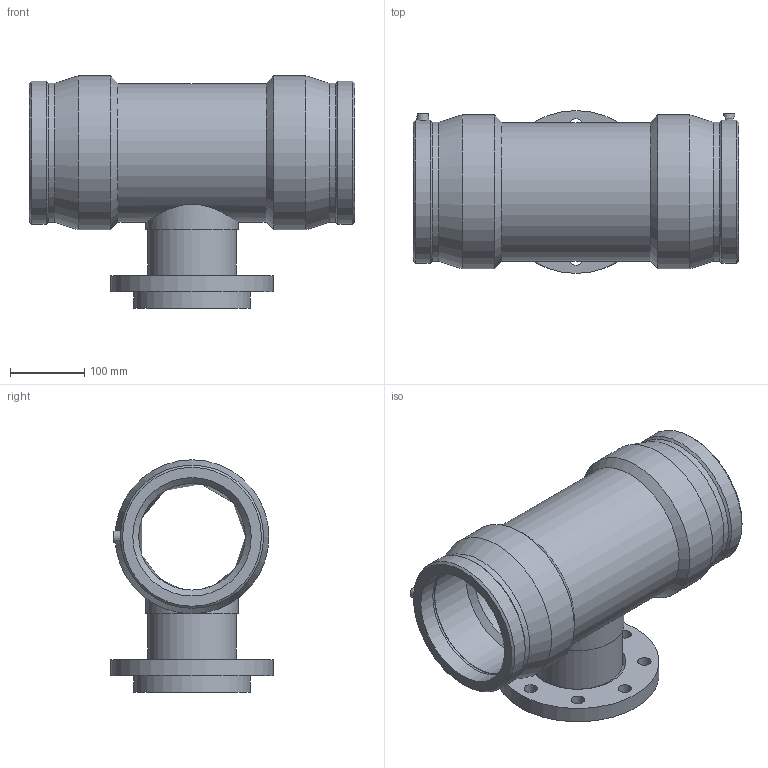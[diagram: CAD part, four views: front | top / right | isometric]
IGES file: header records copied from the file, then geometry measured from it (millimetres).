
Global section: file name: 499404160100.ipt; native system: Autodesk Inventor 2015; preprocessor: unknown; author: KIM; date: 20171106.094453; units: millimetre
Bounding box: 440 x 220 x 314 mm (x, y, z)
Volume: 6091584.4 mm3; surface area: 673690.4 mm2
Topology: 1 solids, 2 shells, 60 faces, 136 edges, 90 vertices
Faces by surface type: revolution 21, plane 14, cylinder 13, cone 11, bspline 1
Full cylindrical faces by diameter (mm): 4 x2, 120 x1, 125 x1, 158 x1, 187.2 x1, 187.637 x2, 193.44 x2, 208 x2, 220 x1
